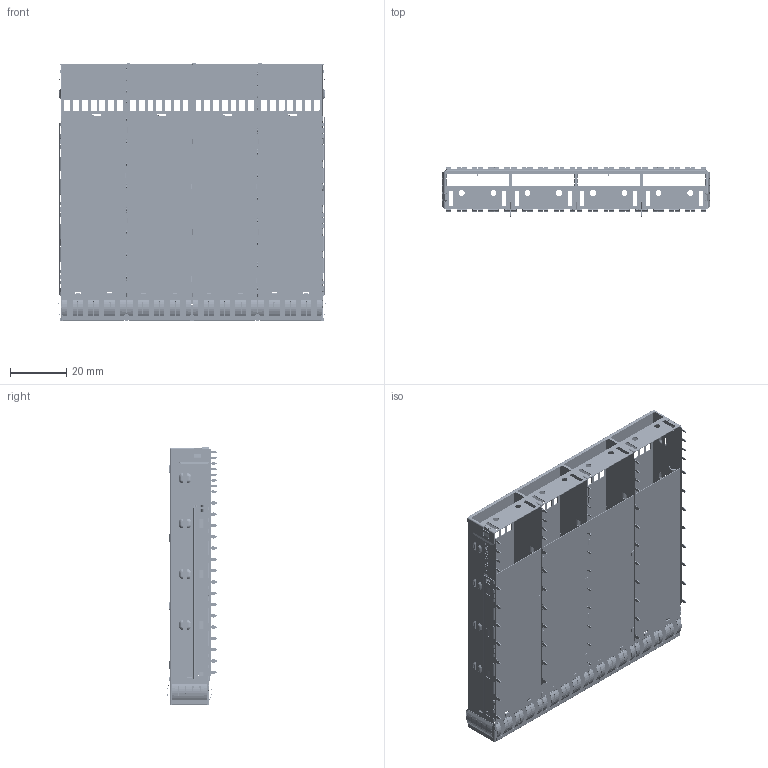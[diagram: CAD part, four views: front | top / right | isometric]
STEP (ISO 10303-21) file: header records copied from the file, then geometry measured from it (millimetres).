
FILE_DESCRIPTION((''),'2;1');
FILE_NAME('OSFP_CAGE_1X4_UPPER_68_3','2026-06-25T10:17:56',('39002408'),(''),'CREO PARAMETRIC BY PTC INC, 2019471','CREO PARAMETRIC BY PTC INC, 2019471','');
FILE_SCHEMA(('CONFIG_CONTROL_DESIGN'));
Products named in the file (1): OSFP_CAGE_1X4_UPPER_68_3
Bounding box: 95.16 x 17.69 x 91.38 mm (x, y, z)
Volume: 5971.6 mm3; surface area: 53243.6 mm2
Topology: 1 solids, 1 shells, 8638 faces, 23910 edges, 14936 vertices
Faces by surface type: plane 4353, cylinder 3466, bspline 712, cone 64, extrusion 25, torus 18
Entity records: 296544 total; most frequent: CARTESIAN_POINT 76334, ORIENTED_EDGE 47820, DIRECTION 44260, EDGE_CURVE 23910, VECTOR 15450, LINE 15425, VERTEX_POINT 14936, AXIS2_PLACEMENT_3D 14405
